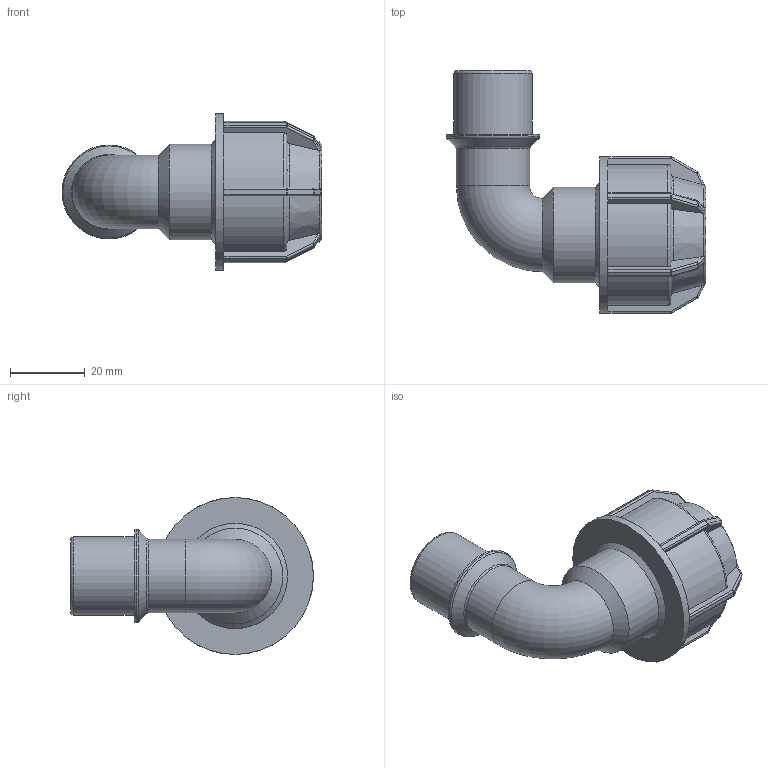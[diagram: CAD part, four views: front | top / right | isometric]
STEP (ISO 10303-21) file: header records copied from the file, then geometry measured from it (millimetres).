
FILE_DESCRIPTION(/* description */ ('PLASSON L.14 90° ELBOW MALE ADAPTOR (SILVER) 16-1/2"'),/* implementation_level */ '2;1');
FILE_NAME(/* name */ 'C:\Dropbox\KIMPROJECTS-Inventor\99-16-3568-Processing\Silver+MF ISRAEL\148500\148500016005.ipt.stp',/* time_stamp */ '2018-04-09T13:05:39+03:00',/* author */ ('KIM'),/* organization */ (''),/* preprocessor_version */ 'ST-DEVELOPER v15.6',/* originating_system */ 'Autodesk Inventor 2015',/* authorisation */ '');
FILE_SCHEMA (('AUTOMOTIVE_DESIGN { 1 0 10303 214 3 1 1 }'));
Length unit declared in the file: millimetre
Products named in the file (1): 148500016005
Bounding box: 69.57 x 65 x 42 mm (x, y, z)
Volume: 33111 mm3; surface area: 15577 mm2
Topology: 1 solids, 1 shells, 216 faces, 518 edges, 296 vertices
Faces by surface type: plane 100, cylinder 63, sphere 24, torus 19, cone 10
Full cylindrical faces by diameter (mm): 14.4 x1, 16 x2, 16.764 x1, 19.593 x1, 20.955 x1, 25.146 x1, 25.6 x1, 42 x1
Entity records: 6150 total; most frequent: CARTESIAN_POINT 1554, DIRECTION 970, ORIENTED_EDGE 926, EDGE_CURVE 463, AXIS2_PLACEMENT_3D 395, VERTEX_POINT 277, EDGE_LOOP 240, FACE_OUTER_BOUND 213
